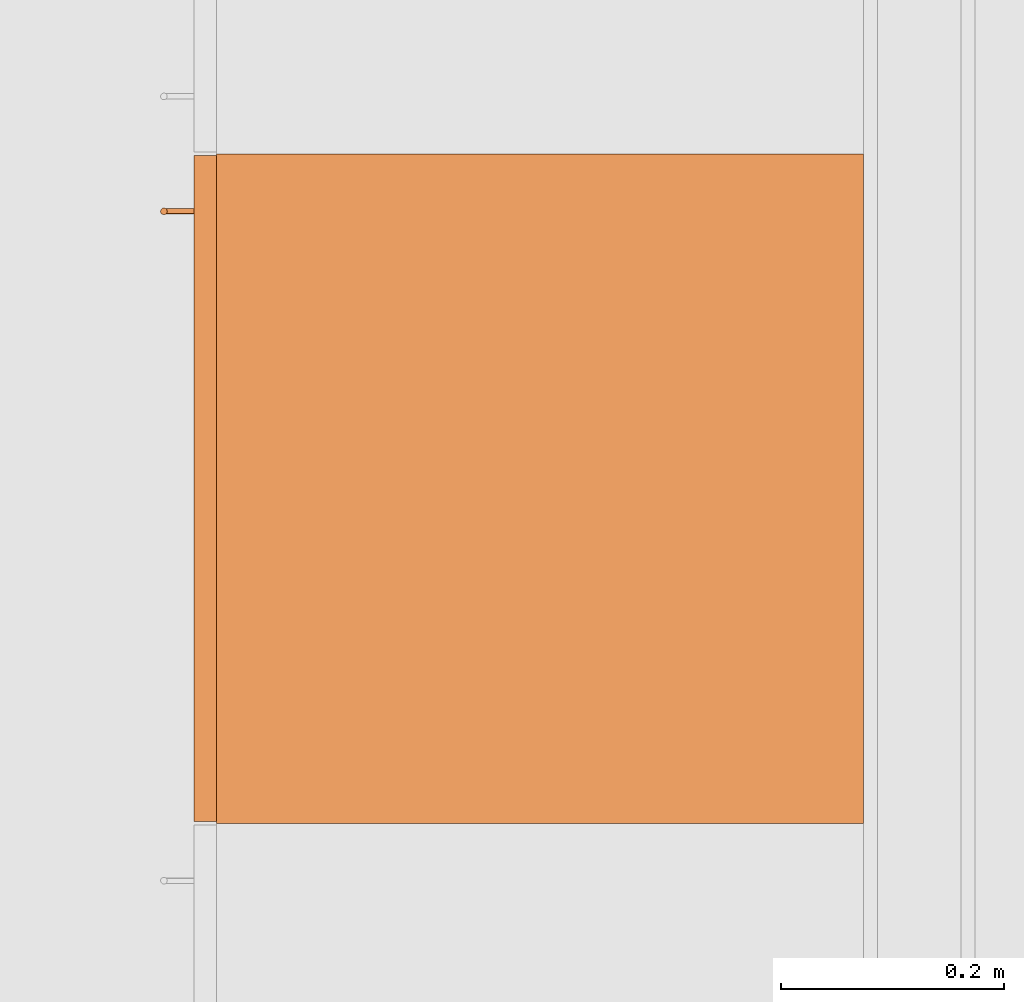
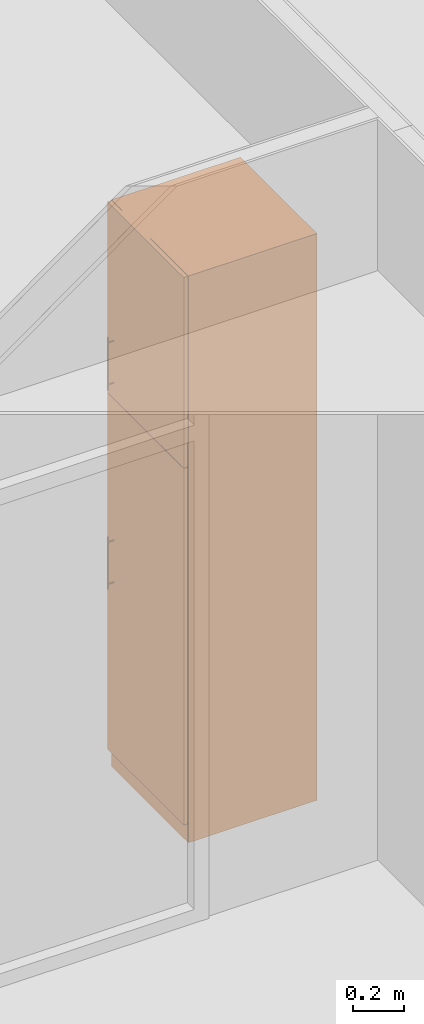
# One storey, part 82 of 167: 1 proxy.
"""IFC2X3 building model written with IfcOpenShell, lengths in millimetres."""

from ifc_helpers import new_model, entity, si_unit, converted_unit, derived_unit, money_unit, direction, frame, origin_with_axes, place, context, subcontext, project, spatial, open_shell, faceted_brep, surface_model, source, transform, mapped, type_object, type_shapes, element, save


model = new_model("IFC2X3")

# Units and contexts
model_context = context("Model", 3, precision=0.01, world=origin_with_axes(), true_north=direction((0.0, 1.0)))
plan_context = context("Plan", 3, precision=0.01, world=origin_with_axes(), true_north=direction((0.0, 1.0)))
body_context = subcontext(model_context, "Body", "Model", "MODEL_VIEW")
ifc_project = project(units=[si_unit("LENGTHUNIT", "METRE", prefix="MILLI"), si_unit("AREAUNIT", "SQUARE_METRE"), si_unit("VOLUMEUNIT", "CUBIC_METRE"), converted_unit("PLANEANGLEUNIT", "DEGREE", entity("IfcPlaneAngleMeasure", 0.0174532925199), si_unit("PLANEANGLEUNIT", "RADIAN"), dimensions=[0, 0, 0, 0, 0, 0, 0]), si_unit("SOLIDANGLEUNIT", "STERADIAN"), money_unit("EUR"), converted_unit("TIMEUNIT", "Year", entity("IfcTimeMeasure", 31556926.0), si_unit("TIMEUNIT", "SECOND"), dimensions=[0, 0, 1, 0, 0, 0, 0]), si_unit("MASSUNIT", "GRAM", prefix="KILO"), si_unit("THERMODYNAMICTEMPERATUREUNIT", "DEGREE_CELSIUS"), si_unit("LUMINOUSINTENSITYUNIT", "LUMEN"), si_unit("ENERGYUNIT", "JOULE", prefix="MEGA"), derived_unit("THERMALCONDUCTANCEUNIT", [(si_unit("POWERUNIT", "WATT"), 1), (si_unit("LENGTHUNIT", "METRE"), -1), (si_unit("THERMODYNAMICTEMPERATUREUNIT", "KELVIN"), -1)]), derived_unit("SPECIFICHEATCAPACITYUNIT", [(si_unit("ENERGYUNIT", "JOULE"), 1), (si_unit("MASSUNIT", "GRAM", prefix="KILO"), -1), (si_unit("THERMODYNAMICTEMPERATUREUNIT", "KELVIN"), -1)]), derived_unit("MASSDENSITYUNIT", [(si_unit("MASSUNIT", "GRAM", prefix="KILO"), 1), (si_unit("VOLUMEUNIT", "CUBIC_METRE"), -1)])], contexts=[model_context, plan_context])

# Site, building, storey
site_placement = place(None, origin_with_axes())
site = spatial("IfcSite", under=ifc_project, at=site_placement, Name="Site", CompositionType="ELEMENT")
building_placement = place(site_placement, origin_with_axes())
building = spatial("IfcBuilding", under=site, at=building_placement, Name="Naam gebouw", CompositionType="ELEMENT")
storey_placement = place(building_placement, origin_with_axes())
storey = spatial("IfcBuildingStorey", under=building, at=storey_placement, Name="Begane grond", CompositionType="ELEMENT", Elevation=0.0)

# Proxy
building_element_proxy_type = type_object("IfcBuildingElementProxyType", Name="Kast hoog 1D 24", PredefinedType="NOTDEFINED")
shared_shape = source(origin_with_axes(), body_context, "Body", "SurfaceModel", [
    faceted_brep([(-20.0, 20.0, 1780.0), (-20.0, 20.0, 1800.0), (-580.0, 20.0, 1800.0), (-580.0, 20.0, 1780.0), (-20.0, 580.0, 1780.0), (-20.0, 580.0, 1800.0), (-580.0, 580.0, 1800.0), (-580.0, 580.0, 1780.0)], [[[0, 1, 2, 3]], [[4, 5, 1, 0]], [[1, 5, 6, 2]], [[3, 2, 6, 7]], [[0, 3, 7, 4]], [[7, 6, 5, 4]]]),
    faceted_brep([(0.0, 20.0, 0.0), (0.0, 20.0, 90.0), (-600.0, 20.0, 90.0), (-600.0, 20.0, 0.0), (0.0, 600.0, 0.0), (0.0, 600.0, 90.0), (-600.0, 600.0, 90.0), (-600.0, 600.0, 0.0)], [[[0, 1, 2, 3]], [[4, 5, 1, 0]], [[1, 5, 6, 2]], [[3, 2, 6, 7]], [[0, 3, 7, 4]], [[7, 6, 5, 4]]]),
    faceted_brep([(0.0, 20.0, 2680.0), (0.0, 20.0, 2700.0), (-20.0, 20.0, 2700.0), (-20.0, 20.0, 2680.0), (0.0, 600.0, 2680.0), (0.0, 600.0, 2700.0), (-20.0, 600.0, 2700.0), (-580.0, 600.0, 2700.0), (-600.0, 600.0, 2700.0), (-600.0, 20.0, 2700.0), (-580.0, 20.0, 2700.0), (-580.0, 20.0, 2680.0), (-600.0, 20.0, 2680.0), (-600.0, 600.0, 2680.0), (-580.0, 600.0, 2680.0), (-20.0, 600.0, 2680.0)], [[[0, 1, 2, 3]], [[4, 5, 1, 0]], [[1, 5, 6, 7, 8, 9, 10, 2]], [[3, 2, 10, 11]], [[0, 3, 11, 12, 13, 14, 15, 4]], [[15, 6, 5, 4]], [[14, 7, 6, 15]], [[13, 8, 7, 14]], [[12, 9, 8, 13]], [[11, 10, 9, 12]]]),
    faceted_brep([(0.0, 20.0, 90.0), (0.0, 20.0, 110.0), (-20.0, 20.0, 110.0), (-20.0, 20.0, 90.0), (0.0, 600.0, 90.0), (0.0, 600.0, 110.0), (-20.0, 600.0, 110.0), (-580.0, 600.0, 110.0), (-600.0, 600.0, 110.0), (-600.0, 20.0, 110.0), (-580.0, 20.0, 110.0), (-580.0, 20.0, 90.0), (-600.0, 20.0, 90.0), (-600.0, 600.0, 90.0), (-580.0, 600.0, 90.0), (-20.0, 600.0, 90.0)], [[[0, 1, 2, 3]], [[4, 5, 1, 0]], [[1, 5, 6, 7, 8, 9, 10, 2]], [[3, 2, 10, 11]], [[0, 3, 11, 12, 13, 14, 15, 4]], [[15, 6, 5, 4]], [[14, 7, 6, 15]], [[13, 8, 7, 14]], [[12, 9, 8, 13]], [[11, 10, 9, 12]]]),
    faceted_brep([(0.0, 20.0, 110.0), (0.0, 20.0, 2680.0), (-20.0, 20.0, 2680.0), (-20.0, 20.0, 110.0), (0.0, 600.0, 110.0), (0.0, 600.0, 2680.0), (-600.0, 600.0, 2680.0), (-600.0, 20.0, 2680.0), (-580.0, 20.0, 2680.0), (-580.0, 580.0, 2680.0), (-20.0, 580.0, 2680.0), (-20.0, 580.0, 110.0), (-580.0, 580.0, 110.0), (-580.0, 20.0, 110.0), (-600.0, 20.0, 110.0), (-600.0, 600.0, 110.0)], [[[0, 1, 2, 3]], [[4, 5, 1, 0]], [[1, 5, 6, 7, 8, 9, 10, 2]], [[3, 2, 10, 11]], [[0, 3, 11, 12, 13, 14, 15, 4]], [[15, 6, 5, 4]], [[14, 7, 6, 15]], [[13, 8, 7, 14]], [[12, 9, 8, 13]], [[11, 10, 9, 12]]]),
    faceted_brep([(-580.0, 20.0, 414.0), (-580.0, 20.0, 434.0), (-580.0, 580.0, 434.0), (-580.0, 580.0, 414.0), (-20.0, 20.0, 414.0), (-20.0, 20.0, 434.0), (-20.0, 580.0, 434.0), (-20.0, 580.0, 414.0)], [[[0, 1, 2, 3]], [[4, 5, 1, 0]], [[1, 5, 6, 2]], [[3, 2, 6, 7]], [[0, 3, 7, 4]], [[7, 6, 5, 4]]]),
    faceted_brep([(-580.0, 20.0, 758.0), (-580.0, 20.0, 778.0), (-580.0, 580.0, 778.0), (-580.0, 580.0, 758.0), (-20.0, 20.0, 758.0), (-20.0, 20.0, 778.0), (-20.0, 580.0, 778.0), (-20.0, 580.0, 758.0)], [[[0, 1, 2, 3]], [[4, 5, 1, 0]], [[1, 5, 6, 2]], [[3, 2, 6, 7]], [[0, 3, 7, 4]], [[7, 6, 5, 4]]]),
    faceted_brep([(-580.0, 20.0, 1102.0), (-580.0, 20.0, 1122.0), (-580.0, 580.0, 1122.0), (-580.0, 580.0, 1102.0), (-20.0, 20.0, 1102.0), (-20.0, 20.0, 1122.0), (-20.0, 580.0, 1122.0), (-20.0, 580.0, 1102.0)], [[[0, 1, 2, 3]], [[4, 5, 1, 0]], [[1, 5, 6, 2]], [[3, 2, 6, 7]], [[0, 3, 7, 4]], [[7, 6, 5, 4]]]),
    faceted_brep([(-580.0, 20.0, 1446.0), (-580.0, 20.0, 1466.0), (-580.0, 580.0, 1466.0), (-580.0, 580.0, 1446.0), (-20.0, 20.0, 1446.0), (-20.0, 20.0, 1466.0), (-20.0, 580.0, 1466.0), (-20.0, 580.0, 1446.0)], [[[0, 1, 2, 3]], [[4, 5, 1, 0]], [[1, 5, 6, 2]], [[3, 2, 6, 7]], [[0, 3, 7, 4]], [[7, 6, 5, 4]]]),
    faceted_brep([(-1.5, 20.0, 91.5), (-1.5, 0.0, 91.5), (-598.5, 0.0, 91.5), (-598.5, 20.0, 91.5), (-1.5, 20.0, 1788.5), (-1.5, 0.0, 1788.5), (-598.5, 0.0, 1788.5), (-598.5, 20.0, 1788.5)], [[[0, 1, 2, 3]], [[4, 5, 1, 0]], [[1, 5, 6, 2]], [[3, 2, 6, 7]], [[0, 3, 7, 4]], [[7, 6, 5, 4]]]),
    faceted_brep([(-551.397777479, -27.7764571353, 891.5), (-551.5, -27.0, 891.5), (-551.397777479, -26.2235428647, 891.5), (-551.098076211, -25.5, 891.5), (-550.621320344, -24.8786796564, 891.5), (-550.0, -24.4019237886, 891.5), (-549.276457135, -24.1022225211, 891.5), (-548.5, -24.0, 891.5), (-547.723542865, -24.1022225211, 891.5), (-547.0, -24.4019237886, 891.5), (-546.378679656, -24.8786796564, 891.5), (-545.901923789, -25.5, 891.5), (-545.602222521, -26.2235428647, 891.5), (-545.5, -27.0, 891.5), (-545.602222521, -27.7764571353, 891.5), (-545.901923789, -28.5, 891.5), (-546.378679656, -29.1213203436, 891.5), (-547.0, -29.5980762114, 891.5), (-547.723542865, -29.8977774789, 891.5), (-548.5, -30.0, 891.5), (-549.276457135, -29.8977774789, 891.5), (-550.0, -29.5980762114, 891.5), (-550.621320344, -29.1213203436, 891.5), (-551.098076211, -28.5, 891.5), (-551.397777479, -27.7764571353, 1141.5), (-551.5, -27.0, 1141.5), (-551.397777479, -26.2235428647, 1141.5), (-551.098076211, -25.5, 1141.5), (-550.621320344, -24.8786796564, 1141.5), (-550.0, -24.4019237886, 1141.5), (-549.276457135, -24.1022225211, 1141.5), (-548.5, -24.0, 1141.5), (-547.723542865, -24.1022225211, 1141.5), (-547.0, -24.4019237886, 1141.5), (-546.378679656, -24.8786796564, 1141.5), (-545.901923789, -25.5, 1141.5), (-545.602222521, -26.2235428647, 1141.5), (-545.5, -27.0, 1141.5), (-545.602222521, -27.7764571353, 1141.5), (-545.901923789, -28.5, 1141.5), (-546.378679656, -29.1213203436, 1141.5), (-547.0, -29.5980762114, 1141.5), (-547.723542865, -29.8977774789, 1141.5), (-548.5, -30.0, 1141.5), (-549.276457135, -29.8977774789, 1141.5), (-550.0, -29.5980762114, 1141.5), (-550.621320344, -29.1213203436, 1141.5), (-551.098076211, -28.5, 1141.5)], [[[0, 1, 2, 3, 4, 5, 6, 7, 8, 9, 10, 11, 12, 13, 14, 15, 16, 17, 18, 19, 20, 21, 22, 23]], [[0, 24, 25, 1]], [[1, 25, 26, 2]], [[2, 26, 27, 3]], [[3, 27, 28, 4]], [[4, 28, 29, 5]], [[5, 29, 30, 6]], [[6, 30, 31, 7]], [[7, 31, 32, 8]], [[8, 32, 33, 9]], [[9, 33, 34, 10]], [[10, 34, 35, 11]], [[11, 35, 36, 12]], [[12, 36, 37, 13]], [[13, 37, 38, 14]], [[14, 38, 39, 15]], [[15, 39, 40, 16]], [[16, 40, 41, 17]], [[17, 41, 42, 18]], [[18, 42, 43, 19]], [[19, 43, 44, 20]], [[20, 44, 45, 21]], [[21, 45, 46, 22]], [[22, 46, 47, 23]], [[23, 47, 24, 0]], [[24, 47, 46, 45, 44, 43, 42, 41, 40, 39, 38, 37, 36, 35, 34, 33, 32, 31, 30, 29, 28, 27, 26, 25]]]),
    surface_model("IfcShellBasedSurfaceModel", [(-549.147047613, -24.070609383, 914.085185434), (-549.147047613, 0.0, 914.085185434), (-548.5, 0.0, 914.0), (-548.5, -24.0, 914.0), (-549.75, -24.2728219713, 914.334936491), (-549.75, 0.0, 914.334936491), (-550.267766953, 0.0, 914.732233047), (-550.665063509, 0.0, 915.25), (-550.914814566, 0.0, 915.852952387), (-551.0, 0.0, 916.5), (-550.914814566, 0.0, 917.147047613), (-550.665063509, 0.0, 917.75), (-550.267766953, 0.0, 918.267766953), (-549.75, 0.0, 918.665063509), (-549.147047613, 0.0, 918.914814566), (-548.5, 0.0, 919.0), (-547.852952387, 0.0, 918.914814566), (-547.25, 0.0, 918.665063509), (-546.732233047, 0.0, 918.267766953), (-546.334936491, 0.0, 917.75), (-546.085185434, 0.0, 917.147047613), (-546.0, 0.0, 916.5), (-546.085185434, 0.0, 915.852952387), (-546.334936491, 0.0, 915.25), (-546.732233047, 0.0, 914.732233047), (-547.25, 0.0, 914.334936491), (-547.852952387, 0.0, 914.085185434), (-547.852952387, -24.070609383, 914.085185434), (-550.267766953, -24.5761600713, 914.732233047), (-550.665063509, -24.9233440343, 915.25), (-550.914814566, -25.2199239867, 915.852952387), (-551.0, -25.3416876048, 916.5), (-550.914814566, -25.2199239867, 917.147047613), (-550.665063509, -24.9233440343, 917.75), (-550.267766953, -24.5761600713, 918.267766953), (-549.75, -24.2728219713, 918.665063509), (-549.147047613, -24.070609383, 918.914814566), (-548.5, -24.0, 919.0), (-547.852952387, -24.070609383, 918.914814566), (-547.25, -24.2728219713, 918.665063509), (-546.732233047, -24.5761600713, 918.267766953), (-546.334936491, -24.9233440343, 917.75), (-546.085185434, -25.2199239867, 917.147047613), (-546.0, -25.3416876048, 916.5), (-546.085185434, -25.2199239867, 915.852952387), (-546.334936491, -24.9233440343, 915.25), (-546.732233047, -24.5761600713, 914.732233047), (-547.25, -24.2728219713, 914.334936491)], [open_shell([[[0, 1, 2, 3]], [[4, 5, 1, 0]], [[1, 5, 6, 7, 8, 9, 10, 11, 12, 13, 14, 15, 16, 17, 18, 19, 20, 21, 22, 23, 24, 25, 26, 2]], [[3, 2, 26, 27]], [[28, 6, 5, 4]], [[29, 7, 6, 28]], [[30, 8, 7, 29]], [[31, 9, 8, 30]], [[32, 10, 9, 31]], [[33, 11, 10, 32]], [[34, 12, 11, 33]], [[35, 13, 12, 34]], [[36, 14, 13, 35]], [[37, 15, 14, 36]], [[38, 16, 15, 37]], [[39, 17, 16, 38]], [[40, 18, 17, 39]], [[41, 19, 18, 40]], [[42, 20, 19, 41]], [[43, 21, 20, 42]], [[44, 22, 21, 43]], [[45, 23, 22, 44]], [[46, 24, 23, 45]], [[47, 25, 24, 46]], [[27, 26, 25, 47]]])]),
    surface_model("IfcShellBasedSurfaceModel", [(-549.147047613, -24.070609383, 1114.08518543), (-549.147047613, 0.0, 1114.08518543), (-548.5, 0.0, 1114.0), (-548.5, -24.0, 1114.0), (-549.75, -24.2728219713, 1114.33493649), (-549.75, 0.0, 1114.33493649), (-550.267766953, 0.0, 1114.73223305), (-550.665063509, 0.0, 1115.25), (-550.914814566, 0.0, 1115.85295239), (-551.0, 0.0, 1116.5), (-550.914814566, 0.0, 1117.14704761), (-550.665063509, 0.0, 1117.75), (-550.267766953, 0.0, 1118.26776695), (-549.75, 0.0, 1118.66506351), (-549.147047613, 0.0, 1118.91481457), (-548.5, 0.0, 1119.0), (-547.852952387, 0.0, 1118.91481457), (-547.25, 0.0, 1118.66506351), (-546.732233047, 0.0, 1118.26776695), (-546.334936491, 0.0, 1117.75), (-546.085185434, 0.0, 1117.14704761), (-546.0, 0.0, 1116.5), (-546.085185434, 0.0, 1115.85295239), (-546.334936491, 0.0, 1115.25), (-546.732233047, 0.0, 1114.73223305), (-547.25, 0.0, 1114.33493649), (-547.852952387, 0.0, 1114.08518543), (-547.852952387, -24.070609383, 1114.08518543), (-550.267766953, -24.5761600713, 1114.73223305), (-550.665063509, -24.9233440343, 1115.25), (-550.914814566, -25.2199239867, 1115.85295239), (-551.0, -25.3416876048, 1116.5), (-550.914814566, -25.2199239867, 1117.14704761), (-550.665063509, -24.9233440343, 1117.75), (-550.267766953, -24.5761600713, 1118.26776695), (-549.75, -24.2728219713, 1118.66506351), (-549.147047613, -24.070609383, 1118.91481457), (-548.5, -24.0, 1119.0), (-547.852952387, -24.070609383, 1118.91481457), (-547.25, -24.2728219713, 1118.66506351), (-546.732233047, -24.5761600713, 1118.26776695), (-546.334936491, -24.9233440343, 1117.75), (-546.085185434, -25.2199239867, 1117.14704761), (-546.0, -25.3416876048, 1116.5), (-546.085185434, -25.2199239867, 1115.85295239), (-546.334936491, -24.9233440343, 1115.25), (-546.732233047, -24.5761600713, 1114.73223305), (-547.25, -24.2728219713, 1114.33493649)], [open_shell([[[0, 1, 2, 3]], [[4, 5, 1, 0]], [[1, 5, 6, 7, 8, 9, 10, 11, 12, 13, 14, 15, 16, 17, 18, 19, 20, 21, 22, 23, 24, 25, 26, 2]], [[3, 2, 26, 27]], [[28, 6, 5, 4]], [[29, 7, 6, 28]], [[30, 8, 7, 29]], [[31, 9, 8, 30]], [[32, 10, 9, 31]], [[33, 11, 10, 32]], [[34, 12, 11, 33]], [[35, 13, 12, 34]], [[36, 14, 13, 35]], [[37, 15, 14, 36]], [[38, 16, 15, 37]], [[39, 17, 16, 38]], [[40, 18, 17, 39]], [[41, 19, 18, 40]], [[42, 20, 19, 41]], [[43, 21, 20, 42]], [[44, 22, 21, 43]], [[45, 23, 22, 44]], [[46, 24, 23, 45]], [[47, 25, 24, 46]], [[27, 26, 25, 47]]])]),
    faceted_brep([(-1.5, 20.0, 1791.5), (-1.5, 0.0, 1791.5), (-598.5, 0.0, 1791.5), (-598.5, 20.0, 1791.5), (-1.5, 20.0, 2698.5), (-1.5, 0.0, 2698.5), (-598.5, 0.0, 2698.5), (-598.5, 20.0, 2698.5)], [[[0, 1, 2, 3]], [[4, 5, 1, 0]], [[1, 5, 6, 2]], [[3, 2, 6, 7]], [[0, 3, 7, 4]], [[7, 6, 5, 4]]]),
    faceted_brep([(-551.397777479, -27.7764571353, 1841.5), (-551.5, -27.0, 1841.5), (-551.397777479, -26.2235428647, 1841.5), (-551.098076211, -25.5, 1841.5), (-550.621320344, -24.8786796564, 1841.5), (-550.0, -24.4019237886, 1841.5), (-549.276457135, -24.1022225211, 1841.5), (-548.5, -24.0, 1841.5), (-547.723542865, -24.1022225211, 1841.5), (-547.0, -24.4019237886, 1841.5), (-546.378679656, -24.8786796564, 1841.5), (-545.901923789, -25.5, 1841.5), (-545.602222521, -26.2235428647, 1841.5), (-545.5, -27.0, 1841.5), (-545.602222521, -27.7764571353, 1841.5), (-545.901923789, -28.5, 1841.5), (-546.378679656, -29.1213203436, 1841.5), (-547.0, -29.5980762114, 1841.5), (-547.723542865, -29.8977774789, 1841.5), (-548.5, -30.0, 1841.5), (-549.276457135, -29.8977774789, 1841.5), (-550.0, -29.5980762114, 1841.5), (-550.621320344, -29.1213203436, 1841.5), (-551.098076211, -28.5, 1841.5), (-551.397777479, -27.7764571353, 2091.5), (-551.5, -27.0, 2091.5), (-551.397777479, -26.2235428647, 2091.5), (-551.098076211, -25.5, 2091.5), (-550.621320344, -24.8786796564, 2091.5), (-550.0, -24.4019237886, 2091.5), (-549.276457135, -24.1022225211, 2091.5), (-548.5, -24.0, 2091.5), (-547.723542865, -24.1022225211, 2091.5), (-547.0, -24.4019237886, 2091.5), (-546.378679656, -24.8786796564, 2091.5), (-545.901923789, -25.5, 2091.5), (-545.602222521, -26.2235428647, 2091.5), (-545.5, -27.0, 2091.5), (-545.602222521, -27.7764571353, 2091.5), (-545.901923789, -28.5, 2091.5), (-546.378679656, -29.1213203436, 2091.5), (-547.0, -29.5980762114, 2091.5), (-547.723542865, -29.8977774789, 2091.5), (-548.5, -30.0, 2091.5), (-549.276457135, -29.8977774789, 2091.5), (-550.0, -29.5980762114, 2091.5), (-550.621320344, -29.1213203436, 2091.5), (-551.098076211, -28.5, 2091.5)], [[[0, 1, 2, 3, 4, 5, 6, 7, 8, 9, 10, 11, 12, 13, 14, 15, 16, 17, 18, 19, 20, 21, 22, 23]], [[0, 24, 25, 1]], [[1, 25, 26, 2]], [[2, 26, 27, 3]], [[3, 27, 28, 4]], [[4, 28, 29, 5]], [[5, 29, 30, 6]], [[6, 30, 31, 7]], [[7, 31, 32, 8]], [[8, 32, 33, 9]], [[9, 33, 34, 10]], [[10, 34, 35, 11]], [[11, 35, 36, 12]], [[12, 36, 37, 13]], [[13, 37, 38, 14]], [[14, 38, 39, 15]], [[15, 39, 40, 16]], [[16, 40, 41, 17]], [[17, 41, 42, 18]], [[18, 42, 43, 19]], [[19, 43, 44, 20]], [[20, 44, 45, 21]], [[21, 45, 46, 22]], [[22, 46, 47, 23]], [[23, 47, 24, 0]], [[24, 47, 46, 45, 44, 43, 42, 41, 40, 39, 38, 37, 36, 35, 34, 33, 32, 31, 30, 29, 28, 27, 26, 25]]]),
    surface_model("IfcShellBasedSurfaceModel", [(-549.147047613, -24.070609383, 1864.08518543), (-549.147047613, 0.0, 1864.08518543), (-548.5, 0.0, 1864.0), (-548.5, -24.0, 1864.0), (-549.75, -24.2728219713, 1864.33493649), (-549.75, 0.0, 1864.33493649), (-550.267766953, 0.0, 1864.73223305), (-550.665063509, 0.0, 1865.25), (-550.914814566, 0.0, 1865.85295239), (-551.0, 0.0, 1866.5), (-550.914814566, 0.0, 1867.14704761), (-550.665063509, 0.0, 1867.75), (-550.267766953, 0.0, 1868.26776695), (-549.75, 0.0, 1868.66506351), (-549.147047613, 0.0, 1868.91481457), (-548.5, 0.0, 1869.0), (-547.852952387, 0.0, 1868.91481457), (-547.25, 0.0, 1868.66506351), (-546.732233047, 0.0, 1868.26776695), (-546.334936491, 0.0, 1867.75), (-546.085185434, 0.0, 1867.14704761), (-546.0, 0.0, 1866.5), (-546.085185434, 0.0, 1865.85295239), (-546.334936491, 0.0, 1865.25), (-546.732233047, 0.0, 1864.73223305), (-547.25, 0.0, 1864.33493649), (-547.852952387, 0.0, 1864.08518543), (-547.852952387, -24.070609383, 1864.08518543), (-550.267766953, -24.5761600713, 1864.73223305), (-550.665063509, -24.9233440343, 1865.25), (-550.914814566, -25.2199239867, 1865.85295239), (-551.0, -25.3416876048, 1866.5), (-550.914814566, -25.2199239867, 1867.14704761), (-550.665063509, -24.9233440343, 1867.75), (-550.267766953, -24.5761600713, 1868.26776695), (-549.75, -24.2728219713, 1868.66506351), (-549.147047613, -24.070609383, 1868.91481457), (-548.5, -24.0, 1869.0), (-547.852952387, -24.070609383, 1868.91481457), (-547.25, -24.2728219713, 1868.66506351), (-546.732233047, -24.5761600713, 1868.26776695), (-546.334936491, -24.9233440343, 1867.75), (-546.085185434, -25.2199239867, 1867.14704761), (-546.0, -25.3416876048, 1866.5), (-546.085185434, -25.2199239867, 1865.85295239), (-546.334936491, -24.9233440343, 1865.25), (-546.732233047, -24.5761600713, 1864.73223305), (-547.25, -24.2728219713, 1864.33493649)], [open_shell([[[0, 1, 2, 3]], [[4, 5, 1, 0]], [[1, 5, 6, 7, 8, 9, 10, 11, 12, 13, 14, 15, 16, 17, 18, 19, 20, 21, 22, 23, 24, 25, 26, 2]], [[3, 2, 26, 27]], [[28, 6, 5, 4]], [[29, 7, 6, 28]], [[30, 8, 7, 29]], [[31, 9, 8, 30]], [[32, 10, 9, 31]], [[33, 11, 10, 32]], [[34, 12, 11, 33]], [[35, 13, 12, 34]], [[36, 14, 13, 35]], [[37, 15, 14, 36]], [[38, 16, 15, 37]], [[39, 17, 16, 38]], [[40, 18, 17, 39]], [[41, 19, 18, 40]], [[42, 20, 19, 41]], [[43, 21, 20, 42]], [[44, 22, 21, 43]], [[45, 23, 22, 44]], [[46, 24, 23, 45]], [[47, 25, 24, 46]], [[27, 26, 25, 47]]])]),
    surface_model("IfcShellBasedSurfaceModel", [(-549.147047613, -24.070609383, 2064.08518543), (-549.147047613, 0.0, 2064.08518543), (-548.5, 0.0, 2064.0), (-548.5, -24.0, 2064.0), (-549.75, -24.2728219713, 2064.33493649), (-549.75, 0.0, 2064.33493649), (-550.267766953, 0.0, 2064.73223305), (-550.665063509, 0.0, 2065.25), (-550.914814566, 0.0, 2065.85295239), (-551.0, 0.0, 2066.5), (-550.914814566, 0.0, 2067.14704761), (-550.665063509, 0.0, 2067.75), (-550.267766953, 0.0, 2068.26776695), (-549.75, 0.0, 2068.66506351), (-549.147047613, 0.0, 2068.91481457), (-548.5, 0.0, 2069.0), (-547.852952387, 0.0, 2068.91481457), (-547.25, 0.0, 2068.66506351), (-546.732233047, 0.0, 2068.26776695), (-546.334936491, 0.0, 2067.75), (-546.085185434, 0.0, 2067.14704761), (-546.0, 0.0, 2066.5), (-546.085185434, 0.0, 2065.85295239), (-546.334936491, 0.0, 2065.25), (-546.732233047, 0.0, 2064.73223305), (-547.25, 0.0, 2064.33493649), (-547.852952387, 0.0, 2064.08518543), (-547.852952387, -24.070609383, 2064.08518543), (-550.267766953, -24.5761600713, 2064.73223305), (-550.665063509, -24.9233440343, 2065.25), (-550.914814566, -25.2199239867, 2065.85295239), (-551.0, -25.3416876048, 2066.5), (-550.914814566, -25.2199239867, 2067.14704761), (-550.665063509, -24.9233440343, 2067.75), (-550.267766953, -24.5761600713, 2068.26776695), (-549.75, -24.2728219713, 2068.66506351), (-549.147047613, -24.070609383, 2068.91481457), (-548.5, -24.0, 2069.0), (-547.852952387, -24.070609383, 2068.91481457), (-547.25, -24.2728219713, 2068.66506351), (-546.732233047, -24.5761600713, 2068.26776695), (-546.334936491, -24.9233440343, 2067.75), (-546.085185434, -25.2199239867, 2067.14704761), (-546.0, -25.3416876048, 2066.5), (-546.085185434, -25.2199239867, 2065.85295239), (-546.334936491, -24.9233440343, 2065.25), (-546.732233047, -24.5761600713, 2064.73223305), (-547.25, -24.2728219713, 2064.33493649)], [open_shell([[[0, 1, 2, 3]], [[4, 5, 1, 0]], [[1, 5, 6, 7, 8, 9, 10, 11, 12, 13, 14, 15, 16, 17, 18, 19, 20, 21, 22, 23, 24, 25, 26, 2]], [[3, 2, 26, 27]], [[28, 6, 5, 4]], [[29, 7, 6, 28]], [[30, 8, 7, 29]], [[31, 9, 8, 30]], [[32, 10, 9, 31]], [[33, 11, 10, 32]], [[34, 12, 11, 33]], [[35, 13, 12, 34]], [[36, 14, 13, 35]], [[37, 15, 14, 36]], [[38, 16, 15, 37]], [[39, 17, 16, 38]], [[40, 18, 17, 39]], [[41, 19, 18, 40]], [[42, 20, 19, 41]], [[43, 21, 20, 42]], [[44, 22, 21, 43]], [[45, 23, 22, 44]], [[46, 24, 23, 45]], [[47, 25, 24, 46]], [[27, 26, 25, 47]]])]),
])
type_shapes(building_element_proxy_type, [shared_shape])
proxy_placement = place(storey_placement, frame((13750.0, 4073.34783859, 0.0), z_axis=(0.0, 0.0, 1.0), x_axis=(0.0, -1.0, 0.0)))
element("IfcBuildingElementProxy", 1, at=proxy_placement, inside=storey, type_object=building_element_proxy_type, Name="__Object-x", context=body_context, shape_type="MappedRepresentation", body=[
    mapped(shared_shape, transform((0.0, 0.0, 0.0))),
])

save(model, "model.ifc")
